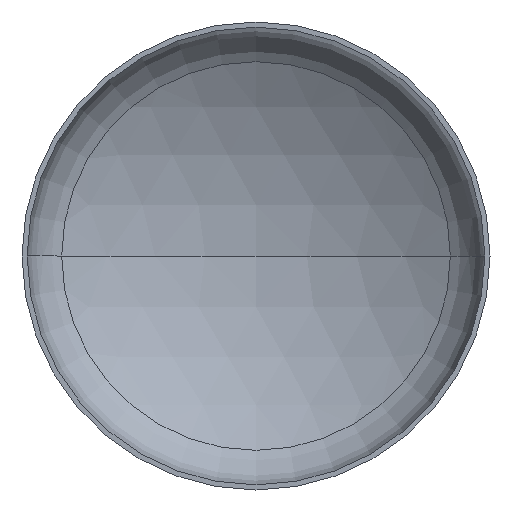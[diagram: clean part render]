
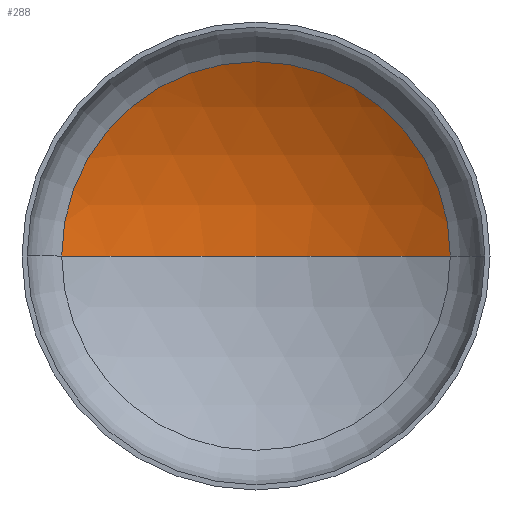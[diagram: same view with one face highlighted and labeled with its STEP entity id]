
A CAD part, front view. The second image highlights one B-rep face of the part: STEP entity #288.
In plain terms, the highlighted spherical face has radius 2400 mm.
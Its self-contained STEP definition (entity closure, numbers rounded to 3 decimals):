
#7 = CARTESIAN_POINT ( 'NONE',  ( 1245.773, 493.176, 0. ) ) ;
#24 = EDGE_LOOP ( 'NONE', ( #154, #109, #132 ) ) ;
#48 = AXIS2_PLACEMENT_3D ( 'NONE', #178, #193, #108 ) ;
#51 = AXIS2_PLACEMENT_3D ( 'NONE', #270, #268, #266 ) ;
#57 = AXIS2_PLACEMENT_3D ( 'NONE', #223, #225, #257 ) ;
#61 = AXIS2_PLACEMENT_3D ( 'NONE', #386, #251, #199 ) ;
#108 = DIRECTION ( 'NONE',  ( -1., 0., 0. ) ) ;
#109 = ORIENTED_EDGE ( 'NONE', *, *, #180, .T. ) ;
#117 = VERTEX_POINT ( 'NONE', #355 ) ;
#118 = VERTEX_POINT ( 'NONE', #380 ) ;
#132 = ORIENTED_EDGE ( 'NONE', *, *, #160, .T. ) ;
#154 = ORIENTED_EDGE ( 'NONE', *, *, #189, .F. ) ;
#159 = VERTEX_POINT ( 'NONE', #7 ) ;
#160 = EDGE_CURVE ( 'NONE', #159, #118, #170, .T. ) ;
#170 = CIRCLE ( 'NONE', #61, 1245.773 ) ;
#178 = CARTESIAN_POINT ( 'NONE',  ( 0., -1558.177, 0. ) ) ;
#180 = EDGE_CURVE ( 'NONE', #117, #159, #247, .T. ) ;
#189 = EDGE_CURVE ( 'NONE', #117, #118, #298, .T. ) ;
#193 = DIRECTION ( 'NONE',  ( 0., 0., -1. ) ) ;
#199 = DIRECTION ( 'NONE',  ( 1., 0., 0. ) ) ;
#223 = CARTESIAN_POINT ( 'NONE',  ( 0., -1558.177, 0. ) ) ;
#225 = DIRECTION ( 'NONE',  ( 0., 0., -1. ) ) ;
#228 = FACE_OUTER_BOUND ( 'NONE', #24, .T. ) ;
#247 = CIRCLE ( 'NONE', #57, 2400. ) ;
#251 = DIRECTION ( 'NONE',  ( 0., -1., 0. ) ) ;
#257 = DIRECTION ( 'NONE',  ( -1., 0., 0. ) ) ;
#266 = DIRECTION ( 'NONE',  ( 1., 0., 0. ) ) ;
#268 = DIRECTION ( 'NONE',  ( 0., 0., 1. ) ) ;
#270 = CARTESIAN_POINT ( 'NONE',  ( 0., -1558.177, 0. ) ) ;
#281 = SPHERICAL_SURFACE ( 'NONE', #48, 2400. ) ;
#288 = ADVANCED_FACE ( 'NONE', ( #228 ), #281, .F. ) ;
#298 = CIRCLE ( 'NONE', #51, 2400. ) ;
#355 = CARTESIAN_POINT ( 'NONE',  ( 0., 841.823, 0. ) ) ;
#380 = CARTESIAN_POINT ( 'NONE',  ( -1245.773, 493.176, 0. ) ) ;
#386 = CARTESIAN_POINT ( 'NONE',  ( 0., 493.176, 0. ) ) ;
